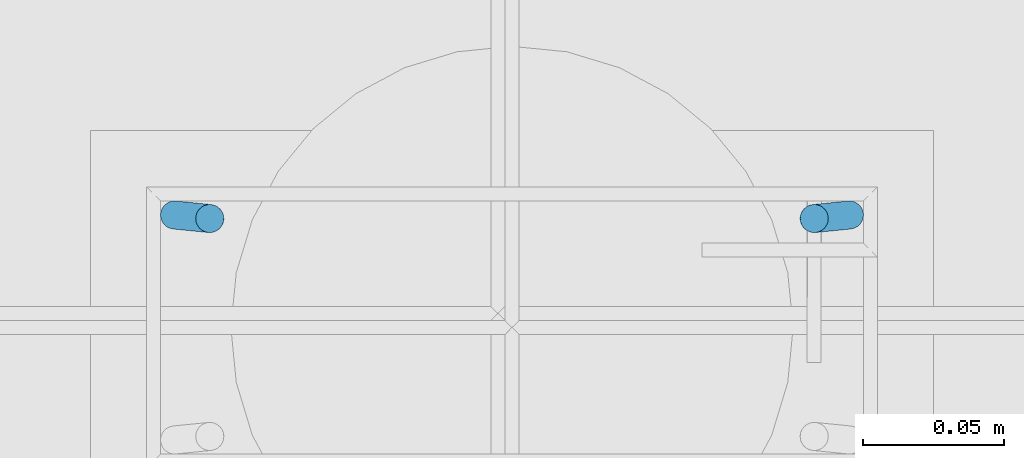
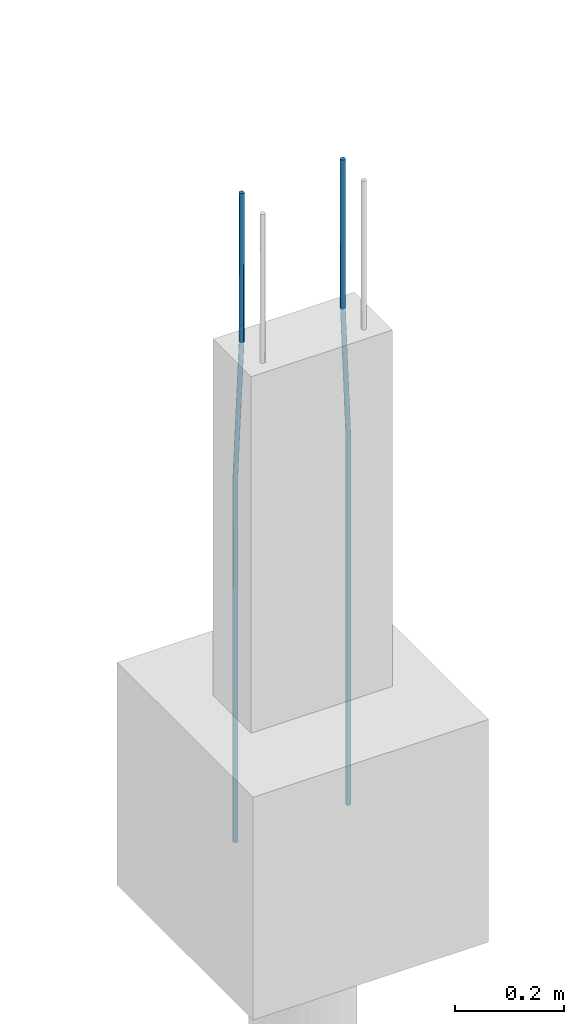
# One storey, part 66 of 119: 2 reinforcing bars.
"""IFC4 building model written with IfcOpenShell, lengths in centimetres."""

from ifc_helpers import new_model, entity, si_unit, derived_unit, frame, origin_with_axes, place, context, project, spatial, element, save


model = new_model("IFC4")

# Units and contexts
model_context = context("Model", 3, precision=1e-05, world=origin_with_axes(), identifier="Body")
ifc_project = project(units=[si_unit("LENGTHUNIT", "METRE", prefix="CENTI"), si_unit("VOLUMEUNIT", "CUBIC_METRE"), si_unit("AREAUNIT", "SQUARE_METRE"), si_unit("POWERUNIT", "WATT"), si_unit("LUMINOUSFLUXUNIT", "LUMEN"), si_unit("ELECTRICCURRENTUNIT", "AMPERE"), si_unit("PRESSUREUNIT", "PASCAL", prefix="KILO"), si_unit("MASSUNIT", "GRAM", prefix="KILO"), si_unit("PLANEANGLEUNIT", "RADIAN"), derived_unit("VOLUMETRICFLOWRATEUNIT", [(si_unit("LENGTHUNIT", "METRE"), 3), (si_unit("TIMEUNIT", "SECOND"), -1)])], contexts=[model_context])

# Site, building, storey
site_placement = place(None, frame((-4000.0, 0.0, 0.0), z_axis=(0.0, 0.0, 1.0), x_axis=(1.0, 0.0, 0.0)))
site = spatial("IfcSite", under=ifc_project, at=site_placement, Name="PADRÃO")
building_placement = place(site_placement, frame((0.0, 0.0, -14.0)))
building = spatial("IfcBuilding", under=site, at=building_placement, Name="CRECHE PRÉ-ESCOLA TIPO 2")
storey_placement = place(building_placement, origin_with_axes())
storey = spatial("IfcBuildingStorey", under=building, at=storey_placement, Name="FUNDAÇÃO", CompositionType="ELEMENT", Elevation=-14.0)

# Reinforcing bars
reinforcing_bar_1_placement = place(storey_placement, frame((3363.625, 3988.9475, 33.3573001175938), z_axis=(0.0, 0.0, 1.0), x_axis=(1.0, 0.0, 0.0)))
element("IfcReinforcingBar", 1, at=reinforcing_bar_1_placement, inside=storey, Name="P28 - Longitudinal", BarLength=0.0, CrossSectionArea=7.853981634e-05, NominalDiameter=1.0, PredefinedType="MAIN", context=model_context, shape_type="AdvancedSweptSolid", body=[
    entity("IfcSweptDiskSolid", entity("IfcCompositeCurve", [entity("IfcCompositeCurveSegment", "CONTINUOUS", True, entity("IfcPolyline", [entity("IfcCartesianPoint", [-0.625, 0.0625, -145.357300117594]), entity("IfcCartesianPoint", [-0.625, 0.0625, -63.3573001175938])])), entity("IfcCompositeCurveSegment", "CONTINUOUS", True, entity("IfcPolyline", [entity("IfcCartesianPoint", [-0.625, 0.0625, -63.3573001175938]), entity("IfcCartesianPoint", [0.625, -0.0625, -33.3573001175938])])), entity("IfcCompositeCurveSegment", "CONTINUOUS", True, entity("IfcPolyline", [entity("IfcCartesianPoint", [0.625, -0.0625, -33.3573001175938]), entity("IfcCartesianPoint", [0.625, -0.0625, 0.0])]))], False), 0.5),
])
reinforcing_bar_2_placement = place(storey_placement, frame((3386.375, 3988.9475, 33.3573001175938), z_axis=(0.0, 0.0, 1.0), x_axis=(1.0, 0.0, 0.0)))
element("IfcReinforcingBar", 2, at=reinforcing_bar_2_placement, inside=storey, Name="P28 - Longitudinal", BarLength=0.0, CrossSectionArea=7.853981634e-05, NominalDiameter=1.0, PredefinedType="MAIN", context=model_context, shape_type="AdvancedSweptSolid", body=[
    entity("IfcSweptDiskSolid", entity("IfcCompositeCurve", [entity("IfcCompositeCurveSegment", "CONTINUOUS", True, entity("IfcPolyline", [entity("IfcCartesianPoint", [0.625, 0.0625, -145.357300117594]), entity("IfcCartesianPoint", [0.625, 0.0625, -63.3573001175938])])), entity("IfcCompositeCurveSegment", "CONTINUOUS", True, entity("IfcPolyline", [entity("IfcCartesianPoint", [0.625, 0.0625, -63.3573001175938]), entity("IfcCartesianPoint", [-0.625, -0.0625, -33.3573001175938])])), entity("IfcCompositeCurveSegment", "CONTINUOUS", True, entity("IfcPolyline", [entity("IfcCartesianPoint", [-0.625, -0.0625, -33.3573001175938]), entity("IfcCartesianPoint", [-0.625, -0.0625, 0.0])]))], False), 0.5),
])

save(model, "model.ifc")
